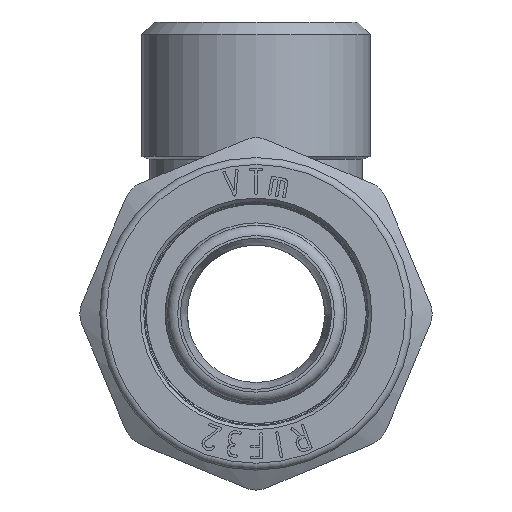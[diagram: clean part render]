
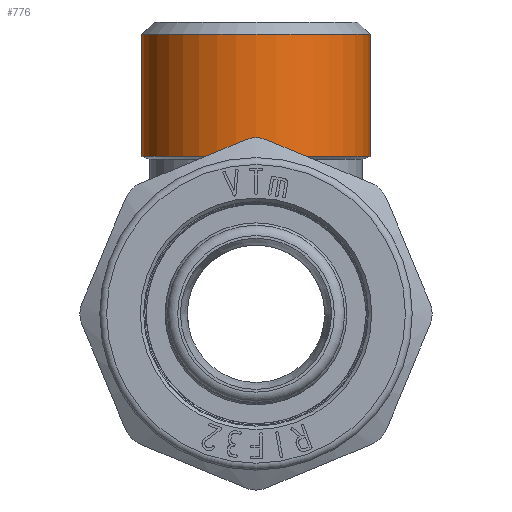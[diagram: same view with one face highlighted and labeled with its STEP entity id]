
A CAD part, front view. The second image highlights one B-rep face of the part: STEP entity #776.
In plain terms, the highlighted cylindrical face has radius 16.625 mm (diameter 33.249 mm), a full revolution.
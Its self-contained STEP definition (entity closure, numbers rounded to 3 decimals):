
#776=ADVANCED_FACE('',(#5946,#5948),#5950,.T.);
#5946=FACE_OUTER_BOUND('',#5947,.T.);
#5947=EDGE_LOOP('',(#11358));
#5948=FACE_OUTER_BOUND('',#5949,.T.);
#5949=EDGE_LOOP('',(#11359));
#5950=CYLINDRICAL_SURFACE('',#5951,16.625);
#5951=AXIS2_PLACEMENT_3D('',#5952,#5953,#5954);
#5952=CARTESIAN_POINT('',(0.,0.,22.5));
#5953=DIRECTION('',(0.,0.,1.));
#5954=DIRECTION('',(0.,1.,0.));
#11358=ORIENTED_EDGE('',*,*,#13479,.F.);
#11359=ORIENTED_EDGE('',*,*,#13444,.T.);
#13444=EDGE_CURVE('',#16810,#16810,#16811,.F.);
#13479=EDGE_CURVE('',#16864,#16864,#16865,.T.);
#16810=VERTEX_POINT('',#28473);
#16811=CIRCLE('',#28474,16.625);
#16864=VERTEX_POINT('',#28600);
#16865=CIRCLE('',#28601,16.625);
#28473=CARTESIAN_POINT('',(0.,16.625,22.919));
#28474=AXIS2_PLACEMENT_3D('',#28475,#28476,#28477);
#28475=CARTESIAN_POINT('',(0.,0.,22.919));
#28476=DIRECTION('',(0.,0.,-1.));
#28477=DIRECTION('',(0.,1.,0.));
#28600=CARTESIAN_POINT('',(0.,16.625,40.7));
#28601=AXIS2_PLACEMENT_3D('',#28602,#28603,#28604);
#28602=CARTESIAN_POINT('',(0.,0.,40.7));
#28603=DIRECTION('',(0.,0.,1.));
#28604=DIRECTION('',(0.,1.,0.));
